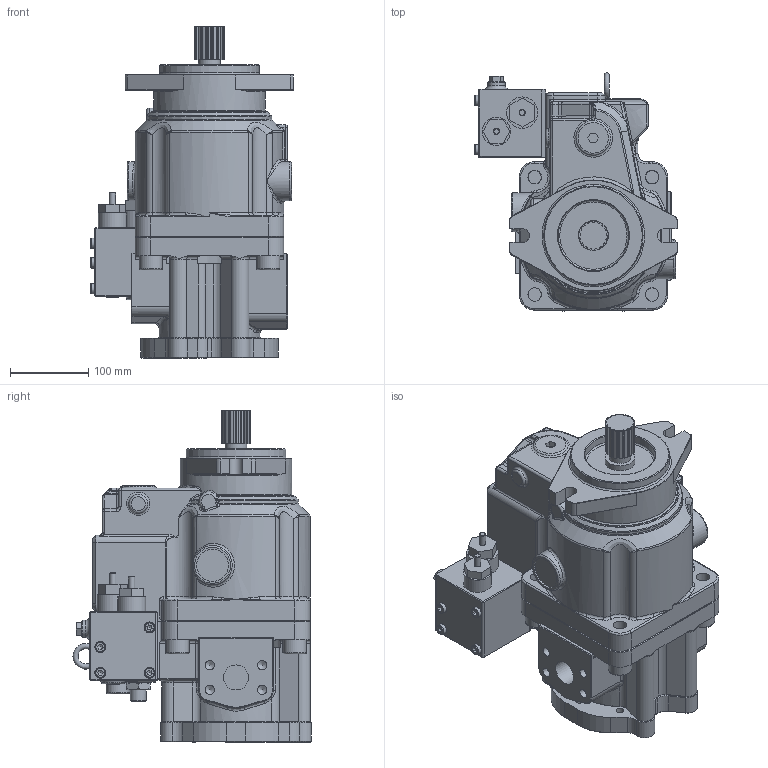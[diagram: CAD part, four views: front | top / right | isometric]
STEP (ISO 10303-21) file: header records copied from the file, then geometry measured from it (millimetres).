
FILE_DESCRIPTION((''),'2;1');
FILE_NAME('I:\3D Step files\Approved for WEB\K3V\K3VL112B 1BRWS L0.stp','2011-12-22T09:15:36',('mnorman'),(''),'Autodesk Inventor 2012','Autodesk Inventor 2012','');
FILE_SCHEMA(('AUTOMOTIVE_DESIGN { 1 0 10303 214 1 1 1 1 }'));
Length unit declared in the file: millimetre
Products named in the file (1): Part6
Bounding box: 259.5 x 304.38 x 424.42 mm (x, y, z)
Volume: 13150071.7 mm3; surface area: 746897.8 mm2
Topology: 29 solids, 29 shells, 1266 faces, 2990 edges, 1797 vertices
Faces by surface type: plane 491, cylinder 345, cone 155, bspline 155, torus 99, sphere 21
Full cylindrical faces by diameter (mm): 4.917 x4, 6.647 x4, 8 x7, 9 x4, 10.106 x14, 11 x2, 11.835 x4, 12 x4, 13 x4, 13.5 x4, 14 x4, 16 x2, 17.294 x5, 18 x4, 19.177 x1, 20 x10, 22 x5, 28 x1, 30 x5, 32 x6, 36 x1, 38.1 x1, 40 x1, 41 x2, 44 x1, 47 x1, 50 x1, 64 x1, 65 x1, 75 x1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
Entity records: 43123 total; most frequent: CARTESIAN_POINT 14749, DIRECTION 5535, ORIENTED_EDGE 5354, EDGE_CURVE 2677, AXIS2_PLACEMENT_3D 2174, VERTEX_POINT 1718, EDGE_LOOP 1559, STYLED_ITEM 1295
